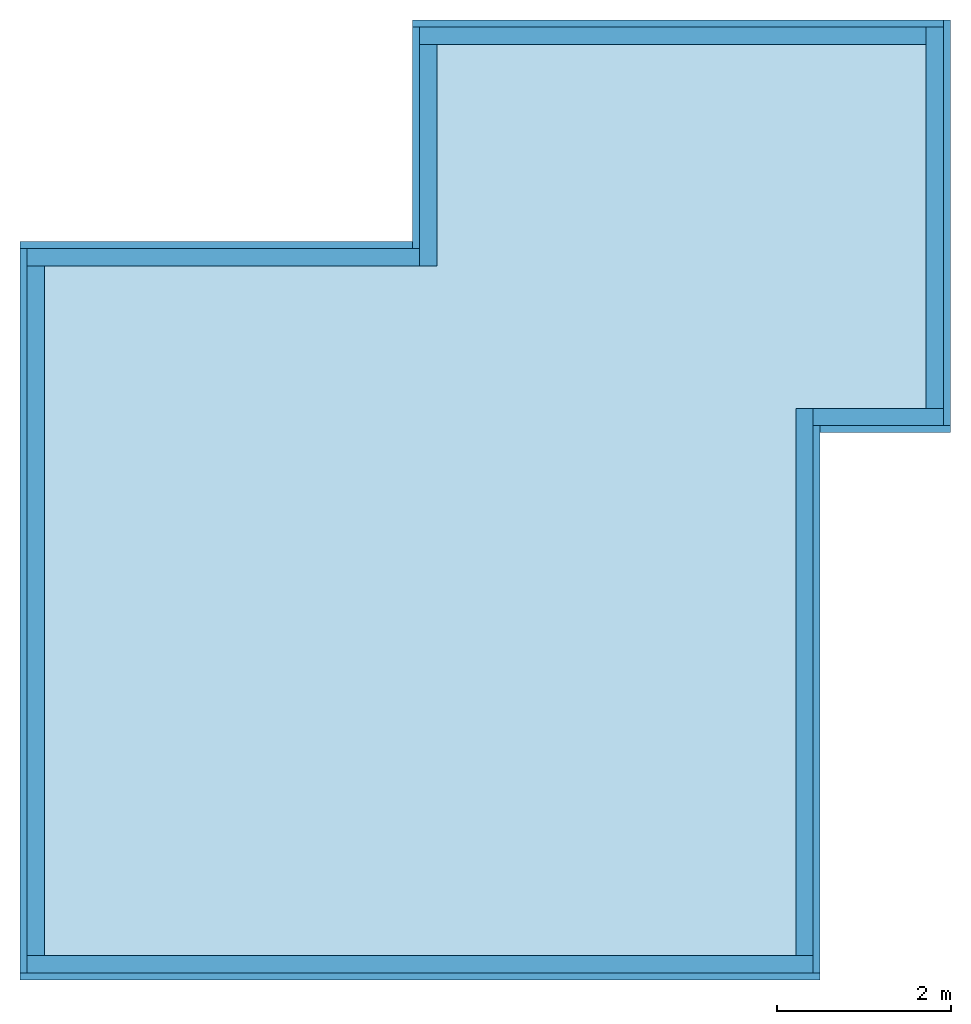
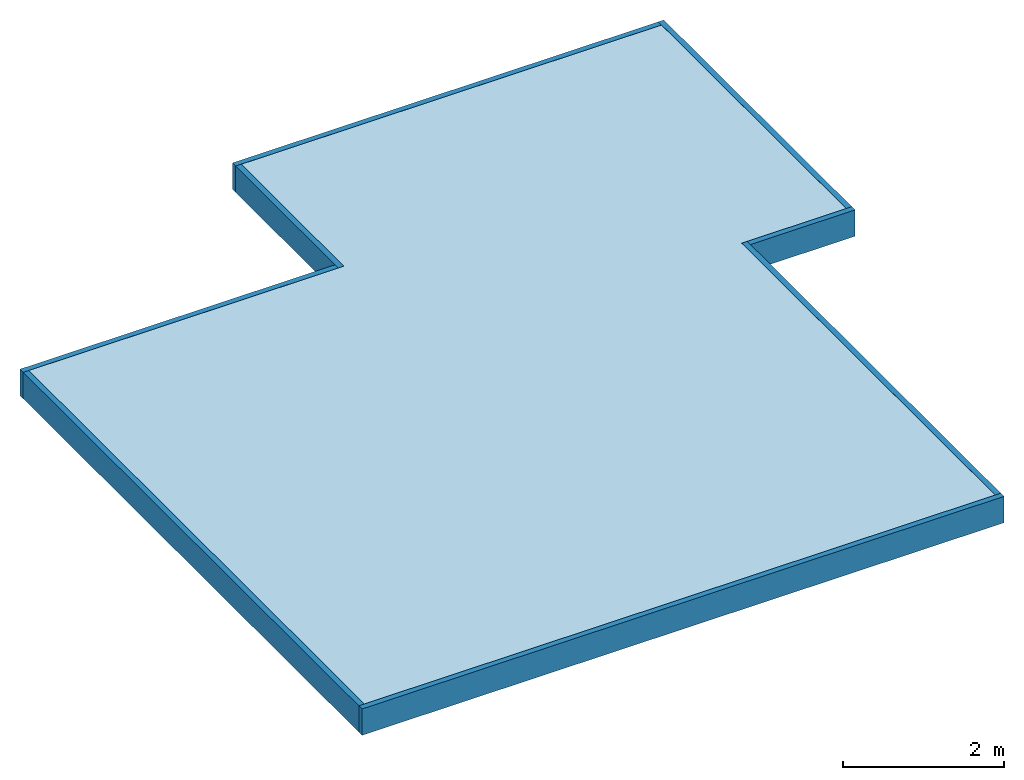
# One storey: 8 walls, 1 slab.
"""IFC2X3 building model written with IfcOpenShell, lengths in millimetres."""

from ifc_helpers import new_model, entity, si_unit, converted_unit, derived_unit, money_unit, direction, frame, origin_with_axes, place, context, subcontext, project, spatial, faceted_brep, material, material_list, type_object, element, save


model = new_model("IFC2X3")

# Units and contexts
model_context = context("Model", 3, precision=0.01, world=origin_with_axes(), true_north=direction((0.0, 1.0)))
body_context = subcontext(model_context, "Body", "Model", "MODEL_VIEW")
ifc_project = project(units=[si_unit("LENGTHUNIT", "METRE", prefix="MILLI"), si_unit("AREAUNIT", "SQUARE_METRE"), si_unit("VOLUMEUNIT", "CUBIC_METRE"), converted_unit("PLANEANGLEUNIT", "DEGREE", entity("IfcPlaneAngleMeasure", 0.0174532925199), si_unit("PLANEANGLEUNIT", "RADIAN"), dimensions=[0, 0, 0, 0, 0, 0, 0]), si_unit("SOLIDANGLEUNIT", "STERADIAN"), money_unit("USD"), converted_unit("TIMEUNIT", "Year", entity("IfcTimeMeasure", 31556926.0), si_unit("TIMEUNIT", "SECOND"), dimensions=[0, 0, 1, 0, 0, 0, 0]), si_unit("MASSUNIT", "GRAM", prefix="KILO"), si_unit("THERMODYNAMICTEMPERATUREUNIT", "DEGREE_CELSIUS"), si_unit("LUMINOUSINTENSITYUNIT", "LUMEN"), si_unit("ENERGYUNIT", "JOULE", prefix="MEGA"), derived_unit("THERMALCONDUCTANCEUNIT", [(si_unit("POWERUNIT", "WATT"), 1), (si_unit("LENGTHUNIT", "METRE"), -1), (si_unit("THERMODYNAMICTEMPERATUREUNIT", "KELVIN"), -1)]), derived_unit("SPECIFICHEATCAPACITYUNIT", [(si_unit("ENERGYUNIT", "JOULE"), 1), (si_unit("MASSUNIT", "GRAM", prefix="KILO"), -1), (si_unit("THERMODYNAMICTEMPERATUREUNIT", "KELVIN"), -1)]), derived_unit("MASSDENSITYUNIT", [(si_unit("MASSUNIT", "GRAM", prefix="KILO"), 1), (si_unit("VOLUMEUNIT", "CUBIC_METRE"), -1)])], contexts=[model_context])

# Site, building, storey
site_placement = place(None, origin_with_axes())
site = spatial("IfcSite", under=ifc_project, at=site_placement, Name="Lokalizacja", CompositionType="ELEMENT")
building_placement = place(site_placement, origin_with_axes())
building = spatial("IfcBuilding", under=site, at=building_placement, Name="Budynek", CompositionType="ELEMENT")
storey_placement = place(building_placement, frame((0.0, 0.0, -3000.0), z_axis=(0.0, 0.0, 1.0), x_axis=(1.0, 0.0, 0.0)))
storey = spatial("IfcBuildingStorey", under=building, at=storey_placement, Name="PLATTE", CompositionType="ELEMENT", Elevation=-3000.0)

# Slab
ifc_material_1 = material(Name="----KONSTRUKCYJNE")
ifc_material_2 = material(Name="---- IZOLACYJNE 400 ------------")
ifc_material_list = material_list([ifc_material_1, ifc_material_2])
slab_type = type_object("IfcSlabType", Name="091 - dan Płyta fundamentowa 250", PredefinedType="FLOOR")
slab_placement = place(storey_placement, frame((-205.025043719, -8134.99992498, 2830.0), z_axis=(0.0, 0.0, 1.0), x_axis=(1.0, 0.0, 0.0)))
element("IfcSlab", 1, at=slab_placement, inside=storey, type_object=slab_type, material=ifc_material_list, Name="P1", PredefinedType="FLOOR", context=body_context, shape_type="Brep", body=[
    faceted_brep([(0.0250021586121, 8339.99992498, -150.0), (0.0250021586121, 8339.99992498, 0.0), (4520.0000022, 8339.99992498, 0.0), (4520.0000022, 8339.99992498, -150.0), (0.0250021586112, -2.01505159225e-05, 0.0), (0.0250021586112, -2.01505159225e-05, -150.0), (9049.99990417, 0.0, 0.0), (9049.99990417, 6299.99992498, 0.0), (10549.9999702, 6299.99992498, 0.0), (10549.9999702, 10889.9999226, 0.0), (4520.0250035, 10889.9999208, 0.0), (4520.0250035, 8339.99992498, 0.0), (4520.0250035, 8339.99992498, -150.0), (4520.0250035, 10889.9999208, -150.0), (10549.9999702, 10889.9999226, -150.0), (10549.9999702, 6299.99992498, -150.0), (9049.99990417, 6299.99992498, -150.0), (9049.99990417, 0.0, -150.0)], [[[0, 1, 2, 3]], [[4, 1, 0, 5]], [[1, 4, 6, 7, 8, 9, 10, 11, 2]], [[2, 11, 12, 3]], [[5, 0, 3, 12, 13, 14, 15, 16, 17]], [[4, 5, 17, 6]], [[17, 16, 7, 6]], [[16, 15, 8, 7]], [[15, 14, 9, 8]], [[13, 10, 9, 14]], [[11, 10, 13, 12]]]),
    faceted_brep([(200.025002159, 8139.99992498, -250.0), (200.025002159, 199.999980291, -250.0), (200.025002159, 199.999980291, -150.0), (200.025002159, 8139.99992498, -150.0), (4520.0250035, 8139.99992498, -250.0), (4720.0250035, 8139.99992498, -250.0), (4720.0250035, 10689.9999208, -250.0), (10350.0000018, 10689.9999208, -250.0), (10350.0000018, 6499.99992498, -250.0), (9050.00000122, 6499.99992498, -250.0), (8850.00000122, 6499.99992498, -250.0), (8850.00000122, 199.999999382, -250.0), (8850.00000122, 199.999999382, -150.0), (8850.00000122, 6499.99992498, -150.0), (9050.00000122, 6499.99992498, -150.0), (10350.0000018, 6499.99992498, -150.0), (10350.0000018, 10689.9999208, -150.0), (4720.0250035, 10689.9999208, -150.0), (4720.0250035, 8139.99992498, -150.0), (4520.0250035, 8139.99992498, -150.0)], [[[0, 1, 2, 3]], [[1, 0, 4, 5, 6, 7, 8, 9, 10, 11]], [[2, 1, 11, 12]], [[3, 2, 12, 13, 14, 15, 16, 17, 18, 19]], [[0, 3, 19, 4]], [[5, 4, 19, 18]], [[6, 5, 18, 17]], [[7, 6, 17, 16]], [[15, 8, 7, 16]], [[14, 9, 8, 15]], [[10, 9, 14, 13]], [[11, 10, 13, 12]]]),
])

# Walls
wall_type = type_object("IfcWallType", Name="401- dan SF - DE 280", PredefinedType="NOTDEFINED")
wall_1_placement = place(storey_placement, frame((-285.001489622, -8214.99994531, 2430.0), z_axis=(0.0, 0.0, 1.0), x_axis=(1.0, 2.20707250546e-09, 0.0)))
element("IfcWall", 2, at=wall_1_placement, inside=storey, type_object=wall_type, material=ifc_material_list, Name="SW2", context=body_context, shape_type="Brep", body=[
    faceted_brep([(80.0014486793, 279.999999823, 250.0), (9129.97635069, 279.999979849, 250.0), (9129.97644774, 279.999979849, 0.0), (80.0014486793, 279.999999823, 0.0), (9129.97635025, 80.0000001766, 250.0), (80.0014482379, 80.0000201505, 250.0), (9129.9764473, 79.9999798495, 0.0), (80.0014482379, 79.9999998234, 0.0)], [[[0, 1, 2, 3]], [[4, 1, 0, 5]], [[1, 4, 6, 2]], [[2, 6, 7, 3]], [[5, 0, 3, 7]], [[4, 5, 7, 6]]]),
    faceted_brep([(9209.97644712, -2.03270857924e-05, 0.0), (0.00144806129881, 0.0, 0.0), (0.00144823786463, 80.0, 0.0), (9209.9764473, 79.9999796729, 0.0), (9209.97644712, -2.03270857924e-05, 400.0), (0.00144806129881, 0.0, 400.0), (0.00144823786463, 80.0, 400.0), (9209.9764473, 79.9999796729, 400.0)], [[[0, 1, 2, 3]], [[4, 5, 1, 0]], [[2, 1, 5, 6]], [[3, 2, 6, 7]], [[3, 7, 4, 0]], [[7, 6, 5, 4]]]),
])
wall_2_placement = place(storey_placement, frame((8924.9749575, -8214.99992498, 2430.0), z_axis=(0.0, 0.0, 1.0), x_axis=(0.0, 1.0, 0.0)))
element("IfcWall", 3, at=wall_2_placement, inside=storey, type_object=wall_type, material=ifc_material_list, Name="SW3", context=body_context, shape_type="Brep", body=[
    faceted_brep([(6579.99992498, 280.0, 250.0), (6579.99992498, 80.0, 250.0), (6579.99992498, 80.0, 0.0), (6579.99992498, 280.0, 0.0), (6379.99992498, 80.0000970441, 250.0), (279.999999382, 280.0, 250.0), (279.999999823, 80.0000970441, 250.0), (279.999999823, 80.0, 0.0), (279.999999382, 280.0, 0.0)], [[[0, 1, 2, 3]], [[4, 1, 0, 5, 6]], [[4, 6, 7, 2, 1]], [[3, 2, 7, 8]], [[5, 0, 3, 8]], [[6, 5, 8, 7]]]),
    faceted_brep([(6379.99992498, 0.0, 0.0), (80.0, 0.0, 0.0), (79.9999998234, 80.0, 0.0), (6379.99992498, 80.0, 0.0), (6379.99992498, 0.0, 400.0), (80.0, 0.0, 400.0), (79.9999998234, 80.0, 400.0), (6379.99992498, 80.0, 400.0)], [[[0, 1, 2, 3]], [[4, 5, 1, 0]], [[2, 1, 5, 6]], [[3, 2, 6, 7]], [[3, 7, 4, 0]], [[7, 6, 5, 4]]]),
])
wall_3_placement = place(storey_placement, frame((8924.9749575, -1915.0, 2430.0), z_axis=(0.0, 0.0, 1.0), x_axis=(1.0, 0.0, 0.0)))
element("IfcWall", 4, at=wall_3_placement, inside=storey, type_object=wall_type, material=ifc_material_list, Name="SW3", context=body_context, shape_type="Brep", body=[
    faceted_brep([(-80.0, 280.0, 250.0), (1419.99996898, 280.0, 250.0), (1420.00000054, 280.0, 0.0), (-80.0, 280.0, 0.0), (1419.99996898, 80.0, 250.0), (-80.0000970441, 80.0, 250.0), (1420.00000054, 80.0, 0.0), (-80.0, 80.0, 0.0)], [[[0, 1, 2, 3]], [[4, 1, 0, 5]], [[1, 4, 6, 2]], [[2, 6, 7, 3]], [[5, 0, 3, 7]], [[4, 5, 7, 6]]]),
    faceted_brep([(1500.00000054, 0.0, 0.0), (0.0, 0.0, 0.0), (0.0, 80.0, 0.0), (1500.00000054, 80.0, 0.0), (1500.00000054, 0.0, 400.0), (0.0, 0.0, 400.0), (0.0, 80.0, 400.0), (1500.00000054, 80.0, 400.0)], [[[0, 1, 2, 3]], [[4, 5, 1, 0]], [[2, 1, 5, 6]], [[3, 2, 6, 7]], [[3, 7, 4, 0]], [[7, 6, 5, 4]]]),
])
wall_4_placement = place(storey_placement, frame((10424.974958, -1915.0, 2430.0), z_axis=(0.0, 0.0, 1.0), x_axis=(0.0, 1.0, 0.0)))
element("IfcWall", 5, at=wall_4_placement, inside=storey, type_object=wall_type, material=ifc_material_list, Name="SW4", context=body_context, shape_type="Brep", body=[
    faceted_brep([(4669.99999766, 280.0, 250.0), (4669.99999766, 80.0000315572, 250.0), (4669.99999578, 80.0, 0.0), (4669.99999578, 280.0, 0.0), (280.0, 80.0000315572, 250.0), (280.0, 280.0, 250.0), (280.0, 80.0, 0.0), (280.0, 280.0, 0.0)], [[[0, 1, 2, 3]], [[4, 1, 0, 5]], [[1, 4, 6, 2]], [[3, 2, 6, 7]], [[5, 0, 3, 7]], [[4, 5, 7, 6]]]),
    faceted_brep([(4749.99999578, 0.0, 0.0), (80.0, 0.0, 0.0), (80.0, 80.0, 0.0), (4749.99999578, 80.0, 0.0), (4749.99999578, 0.0, 400.0), (80.0, 0.0, 400.0), (80.0, 80.0, 400.0), (4749.99999578, 80.0, 400.0)], [[[0, 1, 2, 3]], [[4, 5, 1, 0]], [[2, 1, 5, 6]], [[3, 2, 6, 7]], [[3, 7, 4, 0]], [[7, 6, 5, 4]]]),
])
wall_5_placement = place(storey_placement, frame((10424.974958, 2834.99999578, 2430.0), z_axis=(0.0, 0.0, 1.0), x_axis=(-1.0, 0.0, 0.0)))
element("IfcWall", 6, at=wall_5_placement, inside=storey, type_object=wall_type, material=ifc_material_list, Name="SW5", context=body_context, shape_type="Brep", body=[
    faceted_brep([(6109.97499825, 79.9999981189, 250.0), (280.0, 79.9999981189, 250.0), (280.0, 80.0, 0.0), (6109.97499825, 80.0, 0.0), (280.0, 280.0, 250.0), (6109.97499825, 280.0, 250.0), (280.0, 280.0, 0.0), (6109.97499825, 280.0, 0.0)], [[[0, 1, 2, 3]], [[4, 1, 0, 5]], [[1, 4, 6, 2]], [[7, 3, 2, 6]], [[5, 0, 3, 7]], [[4, 5, 7, 6]]]),
    faceted_brep([(6189.97499825, 0.0, 0.0), (80.0, 0.0, 0.0), (80.0, 80.0, 0.0), (6189.97499825, 80.0, 0.0), (6189.97499825, 0.0, 400.0), (80.0, 0.0, 400.0), (80.0, 80.0, 400.0), (6189.97499825, 80.0, 400.0)], [[[0, 1, 2, 3]], [[4, 5, 1, 0]], [[2, 1, 5, 6]], [[3, 2, 6, 7]], [[3, 7, 4, 0]], [[7, 6, 5, 4]]]),
])
wall_6_placement = place(storey_placement, frame((4234.99995978, 2834.99999578, 2430.0), z_axis=(0.0, 0.0, 1.0), x_axis=(0.0, -1.0, 0.0)))
element("IfcWall", 7, at=wall_6_placement, inside=storey, type_object=wall_type, material=ifc_material_list, Name="SW6", context=body_context, shape_type="Brep", body=[
    faceted_brep([(280.0, 80.0, 250.0), (280.0, 280.0, 250.0), (280.0, 280.0, 0.0), (280.0, 80.0, 0.0), (2829.99999578, 280.0, 250.0), (2829.99999578, 80.0, 250.0), (2829.99999578, 280.0, 0.0), (2829.99999578, 80.0, 0.0)], [[[0, 1, 2, 3]], [[4, 1, 0, 5]], [[1, 4, 6, 2]], [[6, 7, 3, 2]], [[5, 0, 3, 7]], [[4, 5, 7, 6]]]),
    faceted_brep([(2629.99999578, 0.0, 0.0), (80.0, 0.0, 0.0), (80.0, 80.0, 0.0), (2629.99999578, 80.0, 0.0), (2629.99999578, 0.0, 400.0), (80.0, 0.0, 400.0), (80.0, 80.0, 400.0), (2629.99999578, 80.0, 400.0)], [[[0, 1, 2, 3]], [[4, 5, 1, 0]], [[2, 1, 5, 6]], [[3, 2, 6, 7]], [[3, 7, 4, 0]], [[7, 6, 5, 4]]]),
])
wall_7_placement = place(storey_placement, frame((4234.99995978, 285.0, 2430.0), z_axis=(0.0, 0.0, 1.0), x_axis=(-1.0, 0.0, 0.0)))
element("IfcWall", 8, at=wall_7_placement, inside=storey, type_object=wall_type, material=ifc_material_list, Name="SW7", context=body_context, shape_type="Brep", body=[
    faceted_brep([(4440.00000134, 80.0, 250.0), (-79.9749986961, 80.0, 250.0), (-80.0, 80.0, 250.0), (-80.0, 80.0, 0.0), (4440.00000134, 80.0, 0.0), (-80.0, 280.0, 250.0), (4440.00000134, 280.0, 250.0), (-80.0, 280.0, 0.0), (4440.00000134, 280.0, 0.0)], [[[0, 1, 2, 3, 4]], [[5, 2, 1, 0, 6]], [[2, 5, 7, 3]], [[8, 4, 3, 7]], [[6, 0, 4, 8]], [[5, 6, 8, 7]]]),
    faceted_brep([(4520.00000134, 0.0, 0.0), (0.0, 0.0, 0.0), (0.0, 80.0, 0.0), (4520.00000134, 80.0, 0.0), (4520.00000134, 0.0, 400.0), (0.0, 0.0, 400.0), (0.0, 80.0, 400.0), (4520.00000134, 80.0, 400.0)], [[[0, 1, 2, 3]], [[4, 5, 1, 0]], [[2, 1, 5, 6]], [[3, 2, 6, 7]], [[3, 7, 4, 0]], [[7, 6, 5, 4]]]),
])
wall_8_placement = place(storey_placement, frame((-285.000041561, 285.0, 2430.0), z_axis=(0.0, 0.0, 1.0), x_axis=(0.0, -1.0, 0.0)))
element("IfcWall", 9, at=wall_8_placement, inside=storey, type_object=wall_type, material=ifc_material_list, Name="SW8", context=body_context, shape_type="Brep", body=[
    faceted_brep([(280.0, 80.0, 250.0), (280.0, 280.0, 250.0), (280.0, 280.0, 0.0), (280.0, 80.0, 0.0), (8219.99994469, 280.0, 250.0), (8219.99994513, 80.0, 250.0), (8219.99994469, 280.0, 0.0), (8219.99994513, 80.0, 0.0)], [[[0, 1, 2, 3]], [[4, 1, 0, 5]], [[1, 4, 6, 2]], [[6, 7, 3, 2]], [[5, 0, 3, 7]], [[4, 5, 7, 6]]]),
    faceted_brep([(8419.99994531, 0.0, 0.0), (80.0, 0.0, 0.0), (80.0, 80.0, 0.0), (8419.99994513, 80.0, 0.0), (8419.99994531, 0.0, 400.0), (80.0, 0.0, 400.0), (80.0, 80.0, 400.0), (8419.99994513, 80.0, 400.0)], [[[0, 1, 2, 3]], [[4, 5, 1, 0]], [[2, 1, 5, 6]], [[3, 2, 6, 7]], [[3, 7, 4, 0]], [[7, 6, 5, 4]]]),
])

save(model, "model.ifc")
